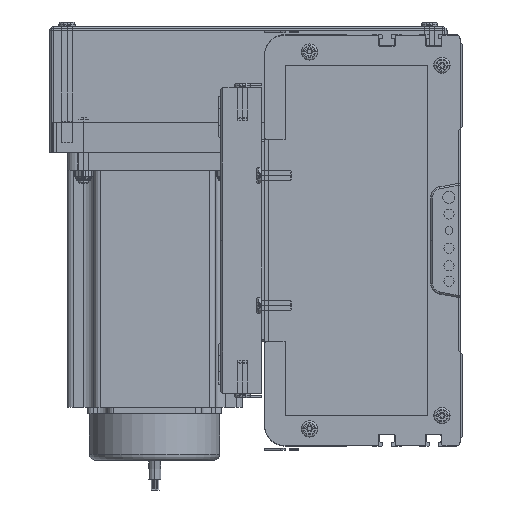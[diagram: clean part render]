
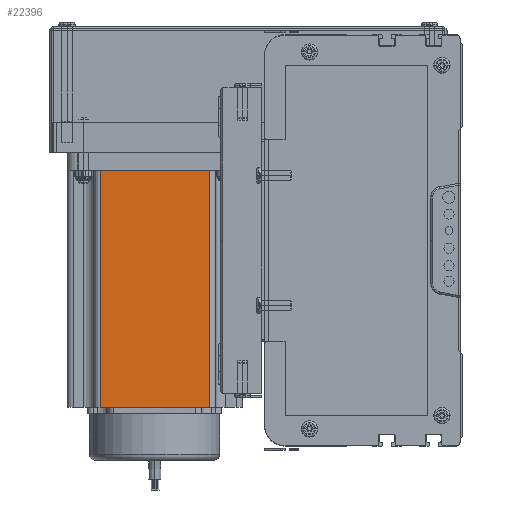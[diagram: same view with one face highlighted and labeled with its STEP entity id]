
A CAD part, left-side view. The second image highlights one B-rep face of the part: STEP entity #22396.
In plain terms, the highlighted planar face has unit normal (-1, 0, 0) as drawn and (0, -1, 0) by its records, which use the part's own axes.
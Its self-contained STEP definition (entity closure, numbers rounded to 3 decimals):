
#18832 = VERTEX_POINT ( 'NONE', #30525 ) ;
#21675 = VERTEX_POINT ( 'NONE', #55570 ) ;
#22388 = EDGE_LOOP ( 'NONE', ( #22400, #22399, #22395, #22419 ) ) ;
#22395 = ORIENTED_EDGE ( 'NONE', *, *, #22414, .F. ) ;
#22396 = ADVANCED_FACE ( 'NONE', ( #58921 ), #58848, .F. ) ;
#22397 = VERTEX_POINT ( 'NONE', #58863 ) ;
#22399 = ORIENTED_EDGE ( 'NONE', *, *, #22401, .T. ) ;
#22400 = ORIENTED_EDGE ( 'NONE', *, *, #22436, .T. ) ;
#22401 = EDGE_CURVE ( 'NONE', #22397, #21675, #58793, .T. ) ;
#22414 = EDGE_CURVE ( 'NONE', #18832, #21675, #57476, .T. ) ;
#22417 = EDGE_CURVE ( 'NONE', #18832, #22979, #59399, .T. ) ;
#22419 = ORIENTED_EDGE ( 'NONE', *, *, #22417, .T. ) ;
#22436 = EDGE_CURVE ( 'NONE', #22979, #22397, #59744, .T. ) ;
#22979 = VERTEX_POINT ( 'NONE', #60989 ) ;
#30525 = CARTESIAN_POINT ( 'NONE',  ( 16.16, 0., 116.5 ) ) ;
#55570 = CARTESIAN_POINT ( 'NONE',  ( 69.74, 0., 116.5 ) ) ;
#57476 = LINE ( 'NONE', #57823, #57637 ) ;
#57479 = DIRECTION ( 'NONE',  ( 1., 0., 0. ) ) ;
#57637 = VECTOR ( 'NONE', #57479, 1000. ) ;
#57823 = CARTESIAN_POINT ( 'NONE',  ( 0., 0., 116.5 ) ) ;
#58739 = DIRECTION ( 'NONE',  ( 0., 0., 1. ) ) ;
#58740 = VECTOR ( 'NONE', #58739, 1000. ) ;
#58742 = CARTESIAN_POINT ( 'NONE',  ( 69.74, 0., 116.5 ) ) ;
#58781 = DIRECTION ( 'NONE',  ( 0., 0., 1. ) ) ;
#58784 = DIRECTION ( 'NONE',  ( 0., 1., 0. ) ) ;
#58793 = LINE ( 'NONE', #58742, #58740 ) ;
#58843 = CARTESIAN_POINT ( 'NONE',  ( 0., 0., 116.5 ) ) ;
#58848 = PLANE ( 'NONE',  #58923 ) ;
#58863 = CARTESIAN_POINT ( 'NONE',  ( 69.74, 0., 0. ) ) ;
#58921 = FACE_OUTER_BOUND ( 'NONE', #22388, .T. ) ;
#58923 = AXIS2_PLACEMENT_3D ( 'NONE', #58843, #58784, #58781 ) ;
#59198 = DIRECTION ( 'NONE',  ( 1., 0., 0. ) ) ;
#59200 = VECTOR ( 'NONE', #59198, 1000. ) ;
#59202 = CARTESIAN_POINT ( 'NONE',  ( 0., 0., 0. ) ) ;
#59248 = CARTESIAN_POINT ( 'NONE',  ( 16.16, 0., 116.5 ) ) ;
#59254 = VECTOR ( 'NONE', #59645, 1000. ) ;
#59399 = LINE ( 'NONE', #59248, #59254 ) ;
#59645 = DIRECTION ( 'NONE',  ( 0., 0., -1. ) ) ;
#59744 = LINE ( 'NONE', #59202, #59200 ) ;
#60989 = CARTESIAN_POINT ( 'NONE',  ( 16.16, 0., 0. ) ) ;
